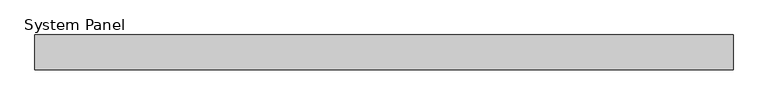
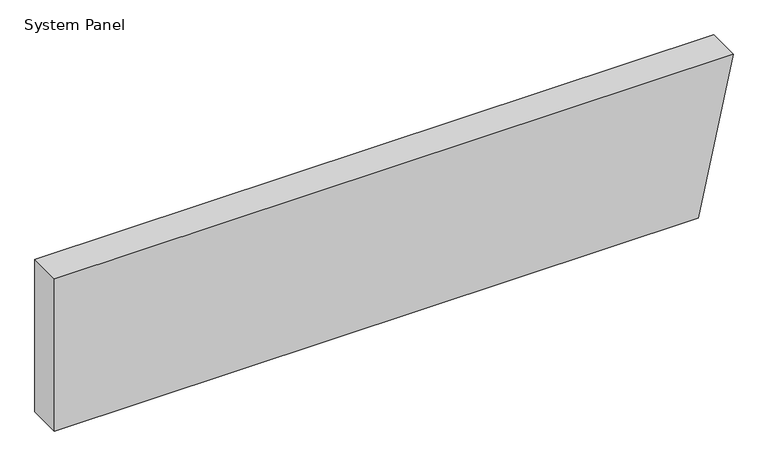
"""IFC4 building model written with IfcOpenShell, lengths in millimetres: plate geometry, System Panel : Inspire 80mm Horizontal - Plain RHEA-PIR."""

from ifc_helpers import new_model, si_unit, frame, origin, place, context, project, spatial, polyline, outline, extrude, source, transform, mapped, element, save


def system_panel_0ee0410c(model_context):
    return source(origin(), model_context, "Body", "SweptSolid", [
        extrude(outline(polyline([(0.0, -800.0), (0.0, 717.3970701), (379.9704237, 800.0), (379.9704237, -800.0), (0.0, -800.0)])), frame((0.0, -80.0, 0.0), z_axis=(0.0, 1.0, 0.0), x_axis=(0.0, 0.0, 1.0)), (0.0, 0.0, 1.0), 80.0),
    ])


if __name__ == "__main__":
    model = new_model("IFC4")
    model_context = context("Model", 3, world=origin())
    ifc_project = project(units=[si_unit("LENGTHUNIT", "METRE", prefix="MILLI")], contexts=[model_context])
    site = spatial("IfcSite", under=ifc_project)
    building = spatial("IfcBuilding", under=site)
    placement = place(None, origin())
    system_panel_shape = system_panel_0ee0410c(model_context)
    element("IfcPlate", 1, ObjectType="System Panel : Inspire 80mm Horizontal - Plain RHEA-PIR", at=placement, inside=building, context=model_context, shape_type="MappedRepresentation", body=[
        mapped(system_panel_shape, transform((0.0, 0.0, 0.0), x_axis=(1.0, 0.0, 0.0), y_axis=(0.0, 1.0, 0.0), z_axis=(0.0, 0.0, 1.0))),
    ])
    save(model, "model.ifc")
